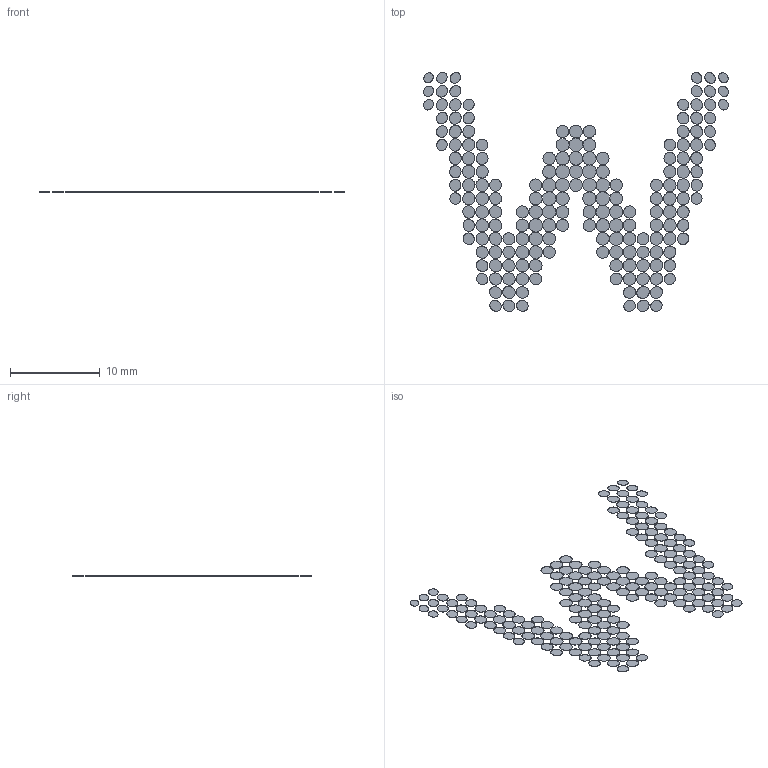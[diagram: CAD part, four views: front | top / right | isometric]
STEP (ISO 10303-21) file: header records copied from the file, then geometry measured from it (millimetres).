
FILE_DESCRIPTION(('Open CASCADE Model'),'2;1');
FILE_NAME('Open CASCADE Shape Model','2026-09-04T20:36:22',('Author'),( 'Open CASCADE'),'Open CASCADE STEP processor 7.7','Open CASCADE 7.7' ,'Unknown');
FILE_SCHEMA(('AUTOMOTIVE_DESIGN { 1 0 10303 214 1 1 1 1 }'));
Length unit declared in the file: millimetre
Products named in the file (184): Open CASCADE STEP translator 7.7 1; Open CASCADE STEP translator 7.7 1.1; Open CASCADE STEP translator 7.7 1.2; Open CASCADE STEP translator 7.7 1.3; Open CASCADE STEP translator 7.7 1.4; Open CASCADE STEP translator 7.7 1.5; Open CASCADE STEP translator 7.7 1.6; Open CASCADE STEP translator 7.7 1.7; Open CASCADE STEP translator 7.7 1.8; Open CASCADE STEP translator 7.7 1.9; Open CASCADE STEP translator 7.7 1.10; Open CASCADE STEP translator 7.7 1.11; Open CASCADE STEP translator 7.7 1.12; Open CASCADE STEP translator 7.7 1.13; Open CASCADE STEP translator 7.7 1.14; Open CASCADE STEP translator 7.7 1.15; Open CASCADE STEP translator 7.7 1.16; Open CASCADE STEP translator 7.7 1.17; Open CASCADE STEP translator 7.7 1.18; Open CASCADE STEP translator 7.7 1.19; Open CASCADE STEP translator 7.7 1.20; Open CASCADE STEP translator 7.7 1.21; Open CASCADE STEP translator 7.7 1.22; Open CASCADE STEP translator 7.7 1.23; Open CASCADE STEP translator 7.7 1.24; Open CASCADE STEP translator 7.7 1.25; Open CASCADE STEP translator 7.7 1.26; Open CASCADE STEP translator 7.7 1.27; Open CASCADE STEP translator 7.7 1.28; Open CASCADE STEP translator 7.7 1.29; Open CASCADE STEP translator 7.7 1.30; Open CASCADE STEP translator 7.7 1.31; Open CASCADE STEP translator 7.7 1.32; Open CASCADE STEP translator 7.7 1.33; Open CASCADE STEP translator 7.7 1.34; Open CASCADE STEP translator 7.7 1.35; Open CASCADE STEP translator 7.7 1.36; Open CASCADE STEP translator 7.7 1.37; Open CASCADE STEP translator 7.7 1.38; Open CASCADE STEP translator 7.7 1.39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
Assembly tree (183 placements, depth 2):
  Open CASCADE STEP translator 7.7 1
    Open CASCADE STEP translator 7.7 1.1
    Open CASCADE STEP translator 7.7 1.2
    Open CASCADE STEP translator 7.7 1.3
    Open CASCADE STEP translator 7.7 1.4
    Open CASCADE STEP translator 7.7 1.5
    Open CASCADE STEP translator 7.7 1.6
    Open CASCADE STEP translator 7.7 1.7
    Open CASCADE STEP translator 7.7 1.8
    Open CASCADE STEP translator 7.7 1.9
    Open CASCADE STEP translator 7.7 1.10
    Open CASCADE STEP translator 7.7 1.11
    Open CASCADE STEP translator 7.7 1.12
    Open CASCADE STEP translator 7.7 1.13
    Open CASCADE STEP translator 7.7 1.14
    Open CASCADE STEP translator 7.7 1.15
    Open CASCADE STEP translator 7.7 1.16
    Open CASCADE STEP translator 7.7 1.17
    Open CASCADE STEP translator 7.7 1.18
    Open CASCADE STEP translator 7.7 1.19
    Open CASCADE STEP translator 7.7 1.20
    Open CASCADE STEP translator 7.7 1.21
    Open CASCADE STEP translator 7.7 1.22
    Open CASCADE STEP translator 7.7 1.23
    Open CASCADE STEP translator 7.7 1.24
    Open CASCADE STEP translator 7.7 1.25
    Open CASCADE STEP translator 7.7 1.26
    Open CASCADE STEP translator 7.7 1.27
    Open CASCADE STEP translator 7.7 1.28
    Open CASCADE STEP translator 7.7 1.29
    Open CASCADE STEP translator 7.7 1.30
    Open CASCADE STEP translator 7.7 1.31
    Open CASCADE STEP translator 7.7 1.32
    Open CASCADE STEP translator 7.7 1.33
    Open CASCADE STEP translator 7.7 1.34
    Open CASCADE STEP translator 7.7 1.35
    Open CASCADE STEP translator 7.7 1.36
    Open CASCADE STEP translator 7.7 1.37
    Open CASCADE STEP translator 7.7 1.38
    Open CASCADE STEP translator 7.7 1.39
    Open CASCADE STEP translator 7.7 1.40
    Open CASCADE STEP translator 7.7 1.41
    Open CASCADE STEP translator 7.7 1.42
    Open CASCADE STEP translator 7.7 1.43
    Open CASCADE STEP translator 7.7 1.44
    Open CASCADE STEP translator 7.7 1.45
    Open CASCADE STEP translator 7.7 1.46
    Open CASCADE STEP translator 7.7 1.47
    Open CASCADE STEP translator 7.7 1.48
    Open CASCADE STEP translator 7.7 1.49
    Open CASCADE STEP translator 7.7 1.50
    Open CASCADE STEP translator 7.7 1.51
    Open CASCADE STEP translator 7.7 1.52
    Open CASCADE STEP translator 7.7 1.53
    Open CASCADE STEP translator 7.7 1.54
    Open CASCADE STEP translator 7.7 1.55
    Open CASCADE STEP translator 7.7 1.56
    Open CASCADE STEP translator 7.7 1.57
    Open CASCADE STEP translator 7.7 1.58
    Open CASCADE STEP translator 7.7 1.59
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Bounding box: 34 x 26.67 x 0.01 mm (x, y, z)
Volume: 2.1 mm3; surface area: 537.9 mm2
Topology: 183 solids, 183 shells, 549 faces, 549 edges, 366 vertices
Faces by surface type: plane 366, extrusion 183
Entity records: 20695 total; most frequent: DIRECTION 3662, CARTESIAN_POINT 2746, AXIS2_PLACEMENT_3D 1099, ORIENTED_EDGE 1098, VECTOR 1098, PCURVE 1098, DEFINITIONAL_REPRESENTATION 1098, LINE 915
